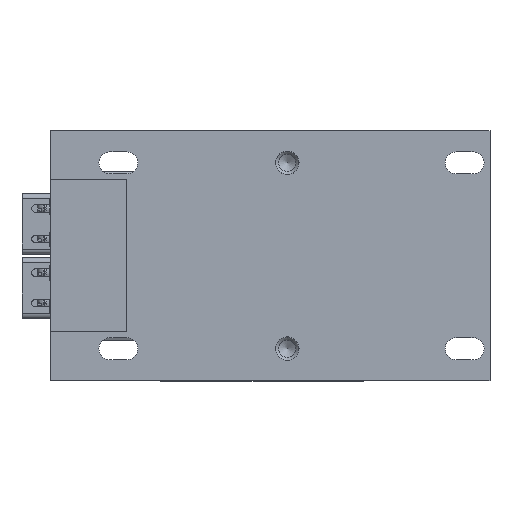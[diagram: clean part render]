
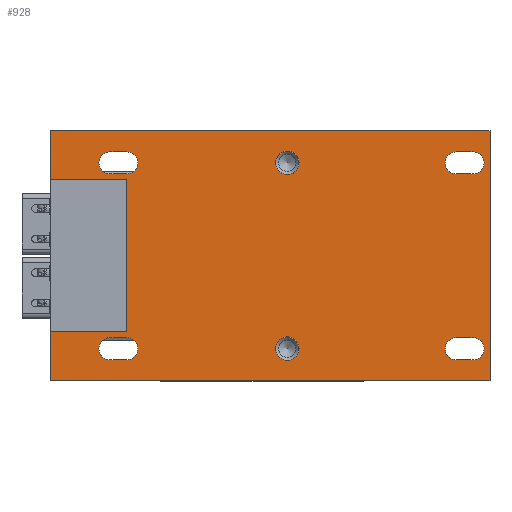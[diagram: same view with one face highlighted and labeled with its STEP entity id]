
A CAD part, top view. The second image highlights one B-rep face of the part: STEP entity #928.
In plain terms, the highlighted planar face has unit normal (0, 0, 1).
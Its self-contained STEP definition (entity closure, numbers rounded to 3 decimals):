
#928=ADVANCED_FACE('',(#8938,#8940,#8942,#8944,#8946,#8948,#8950),#8952,.T.);
#8938=FACE_BOUND('',#8939,.T.);
#8939=EDGE_LOOP('',(#17182,#17183,#17184,#17185,#17186,#17187,#17188,#17189));
#8940=FACE_BOUND('',#8941,.T.);
#8941=EDGE_LOOP('',(#17190,#17191,#17192,#17193));
#8942=FACE_BOUND('',#8943,.T.);
#8943=EDGE_LOOP('',(#17194,#17195,#17196,#17197));
#8944=FACE_BOUND('',#8945,.T.);
#8945=EDGE_LOOP('',(#17198,#17199,#17200,#17201));
#8946=FACE_BOUND('',#8947,.T.);
#8947=EDGE_LOOP('',(#17202,#17203,#17204,#17205));
#8948=FACE_BOUND('',#8949,.T.);
#8949=EDGE_LOOP('',(#17206));
#8950=FACE_BOUND('',#8951,.T.);
#8951=EDGE_LOOP('',(#17207));
#8952=PLANE('',#8953);
#8953=AXIS2_PLACEMENT_3D('',#8954,#8955,#8956);
#8954=CARTESIAN_POINT('',(0.,0.,115.));
#8955=DIRECTION('',(0.,0.,1.));
#8956=DIRECTION('',(1.,0.,0.));
#17182=ORIENTED_EDGE('',*,*,#23219,.T.);
#17183=ORIENTED_EDGE('',*,*,#23220,.F.);
#17184=ORIENTED_EDGE('',*,*,#23221,.T.);
#17185=ORIENTED_EDGE('',*,*,#23222,.T.);
#17186=ORIENTED_EDGE('',*,*,#23223,.T.);
#17187=ORIENTED_EDGE('',*,*,#23224,.T.);
#17188=ORIENTED_EDGE('',*,*,#23225,.T.);
#17189=ORIENTED_EDGE('',*,*,#23226,.F.);
#17190=ORIENTED_EDGE('',*,*,#23227,.T.);
#17191=ORIENTED_EDGE('',*,*,#23228,.T.);
#17192=ORIENTED_EDGE('',*,*,#23229,.T.);
#17193=ORIENTED_EDGE('',*,*,#23230,.T.);
#17194=ORIENTED_EDGE('',*,*,#23231,.T.);
#17195=ORIENTED_EDGE('',*,*,#23232,.T.);
#17196=ORIENTED_EDGE('',*,*,#23233,.T.);
#17197=ORIENTED_EDGE('',*,*,#23234,.T.);
#17198=ORIENTED_EDGE('',*,*,#23235,.T.);
#17199=ORIENTED_EDGE('',*,*,#23236,.T.);
#17200=ORIENTED_EDGE('',*,*,#23237,.T.);
#17201=ORIENTED_EDGE('',*,*,#23238,.T.);
#17202=ORIENTED_EDGE('',*,*,#23239,.T.);
#17203=ORIENTED_EDGE('',*,*,#23240,.T.);
#17204=ORIENTED_EDGE('',*,*,#23241,.T.);
#17205=ORIENTED_EDGE('',*,*,#23242,.T.);
#17206=ORIENTED_EDGE('',*,*,#23243,.T.);
#17207=ORIENTED_EDGE('',*,*,#23216,.T.);
#23216=EDGE_CURVE('',#26185,#26185,#26186,.F.);
#23219=EDGE_CURVE('',#26191,#26192,#26193,.T.);
#23220=EDGE_CURVE('',#26194,#26192,#26195,.T.);
#23221=EDGE_CURVE('',#26194,#26196,#26197,.T.);
#23222=EDGE_CURVE('',#26196,#26198,#26199,.T.);
#23223=EDGE_CURVE('',#26198,#26200,#26201,.T.);
#23224=EDGE_CURVE('',#26200,#26202,#26203,.T.);
#23225=EDGE_CURVE('',#26202,#26204,#26205,.T.);
#23226=EDGE_CURVE('',#26191,#26204,#26206,.T.);
#23227=EDGE_CURVE('',#26207,#26208,#26209,.F.);
#23228=EDGE_CURVE('',#26208,#26210,#26211,.F.);
#23229=EDGE_CURVE('',#26210,#26212,#26213,.F.);
#23230=EDGE_CURVE('',#26212,#26207,#26214,.F.);
#23231=EDGE_CURVE('',#26215,#26216,#26217,.F.);
#23232=EDGE_CURVE('',#26216,#26218,#26219,.F.);
#23233=EDGE_CURVE('',#26218,#26220,#26221,.F.);
#23234=EDGE_CURVE('',#26220,#26215,#26222,.F.);
#23235=EDGE_CURVE('',#26223,#26224,#26225,.F.);
#23236=EDGE_CURVE('',#26224,#26226,#26227,.F.);
#23237=EDGE_CURVE('',#26226,#26228,#26229,.F.);
#23238=EDGE_CURVE('',#26228,#26223,#26230,.F.);
#23239=EDGE_CURVE('',#26231,#26232,#26233,.F.);
#23240=EDGE_CURVE('',#26232,#26234,#26235,.F.);
#23241=EDGE_CURVE('',#26234,#26236,#26237,.F.);
#23242=EDGE_CURVE('',#26236,#26231,#26238,.F.);
#23243=EDGE_CURVE('',#26239,#26239,#26240,.F.);
#26185=VERTEX_POINT('',#31113);
#26186=CIRCLE('',#31114,7.);
#26191=VERTEX_POINT('',#31128);
#26192=VERTEX_POINT('',#31129);
#26193=LINE('',#31130,#31131);
#26194=VERTEX_POINT('',#31133);
#26195=LINE('',#31134,#31135);
#26196=VERTEX_POINT('',#31137);
#26197=LINE('',#31138,#31139);
#26198=VERTEX_POINT('',#31141);
#26199=LINE('',#31142,#31143);
#26200=VERTEX_POINT('',#31145);
#26201=LINE('',#31146,#31147);
#26202=VERTEX_POINT('',#31149);
#26203=LINE('',#31150,#31151);
#26204=VERTEX_POINT('',#31153);
#26205=LINE('',#31154,#31155);
#26206=LINE('',#31157,#31158);
#26207=VERTEX_POINT('',#31160);
#26208=VERTEX_POINT('',#31161);
#26209=CIRCLE('',#31162,6.5);
#26210=VERTEX_POINT('',#31166);
#26211=LINE('',#31167,#31168);
#26212=VERTEX_POINT('',#31170);
#26213=CIRCLE('',#31171,6.5);
#26214=LINE('',#31175,#31176);
#26215=VERTEX_POINT('',#31178);
#26216=VERTEX_POINT('',#31179);
#26217=CIRCLE('',#31180,6.5);
#26218=VERTEX_POINT('',#31184);
#26219=LINE('',#31185,#31186);
#26220=VERTEX_POINT('',#31188);
#26221=CIRCLE('',#31189,6.5);
#26222=LINE('',#31193,#31194);
#26223=VERTEX_POINT('',#31196);
#26224=VERTEX_POINT('',#31197);
#26225=CIRCLE('',#31198,6.5);
#26226=VERTEX_POINT('',#31202);
#26227=LINE('',#31203,#31204);
#26228=VERTEX_POINT('',#31206);
#26229=CIRCLE('',#31207,6.5);
#26230=LINE('',#31211,#31212);
#26231=VERTEX_POINT('',#31214);
#26232=VERTEX_POINT('',#31215);
#26233=CIRCLE('',#31216,6.5);
#26234=VERTEX_POINT('',#31220);
#26235=LINE('',#31221,#31222);
#26236=VERTEX_POINT('',#31224);
#26237=CIRCLE('',#31225,6.5);
#26238=LINE('',#31229,#31230);
#26239=VERTEX_POINT('',#31232);
#26240=CIRCLE('',#31233,7.);
#31113=CARTESIAN_POINT('',(22.,19.,115.));
#31114=AXIS2_PLACEMENT_3D('',#31115,#31116,#31117);
#31115=CARTESIAN_POINT('',(15.,19.,115.));
#31116=DIRECTION('',(0.,0.,1.));
#31117=DIRECTION('',(1.,0.,0.));
#31128=CARTESIAN_POINT('',(135.,0.,115.));
#31129=CARTESIAN_POINT('',(135.,148.,115.));
#31130=CARTESIAN_POINT('',(135.,0.,115.));
#31131=VECTOR('',#31132,1.);
#31132=DIRECTION('',(0.,1.,0.));
#31133=CARTESIAN_POINT('',(-125.,148.,115.));
#31134=CARTESIAN_POINT('',(-125.,148.,115.));
#31135=VECTOR('',#31136,1.);
#31136=DIRECTION('',(1.,0.,0.));
#31137=CARTESIAN_POINT('',(-125.,119.,115.));
#31138=CARTESIAN_POINT('',(-125.,148.,115.));
#31139=VECTOR('',#31140,1.);
#31140=DIRECTION('',(0.,-1.,0.));
#31141=CARTESIAN_POINT('',(-80.,119.,115.));
#31142=CARTESIAN_POINT('',(-125.,119.,115.));
#31143=VECTOR('',#31144,1.);
#31144=DIRECTION('',(1.,0.,0.));
#31145=CARTESIAN_POINT('',(-80.,29.,115.));
#31146=CARTESIAN_POINT('',(-80.,119.,115.));
#31147=VECTOR('',#31148,1.);
#31148=DIRECTION('',(0.,-1.,0.));
#31149=CARTESIAN_POINT('',(-125.,29.,115.));
#31150=CARTESIAN_POINT('',(-80.,29.,115.));
#31151=VECTOR('',#31152,1.);
#31152=DIRECTION('',(-1.,0.,0.));
#31153=CARTESIAN_POINT('',(-125.,0.,115.));
#31154=CARTESIAN_POINT('',(-125.,29.,115.));
#31155=VECTOR('',#31156,1.);
#31156=DIRECTION('',(0.,-1.,0.));
#31157=CARTESIAN_POINT('',(135.,0.,115.));
#31158=VECTOR('',#31159,1.);
#31159=DIRECTION('',(-1.,0.,0.));
#31160=CARTESIAN_POINT('',(-90.,12.5,115.));
#31161=CARTESIAN_POINT('',(-90.,25.5,115.));
#31162=AXIS2_PLACEMENT_3D('',#31163,#31164,#31165);
#31163=CARTESIAN_POINT('',(-90.,19.,115.));
#31164=DIRECTION('',(0.,0.,1.));
#31165=DIRECTION('',(0.,1.,0.));
#31166=CARTESIAN_POINT('',(-80.,25.5,115.));
#31167=CARTESIAN_POINT('',(-80.,25.5,115.));
#31168=VECTOR('',#31169,1.);
#31169=DIRECTION('',(-1.,0.,0.));
#31170=CARTESIAN_POINT('',(-80.,12.5,115.));
#31171=AXIS2_PLACEMENT_3D('',#31172,#31173,#31174);
#31172=CARTESIAN_POINT('',(-80.,19.,115.));
#31173=DIRECTION('',(0.,0.,1.));
#31174=DIRECTION('',(0.,-1.,0.));
#31175=CARTESIAN_POINT('',(-90.,12.5,115.));
#31176=VECTOR('',#31177,1.);
#31177=DIRECTION('',(1.,0.,0.));
#31178=CARTESIAN_POINT('',(-90.,122.5,115.));
#31179=CARTESIAN_POINT('',(-90.,135.5,115.));
#31180=AXIS2_PLACEMENT_3D('',#31181,#31182,#31183);
#31181=CARTESIAN_POINT('',(-90.,129.,115.));
#31182=DIRECTION('',(0.,0.,1.));
#31183=DIRECTION('',(0.,1.,0.));
#31184=CARTESIAN_POINT('',(-80.,135.5,115.));
#31185=CARTESIAN_POINT('',(-80.,135.5,115.));
#31186=VECTOR('',#31187,1.);
#31187=DIRECTION('',(-1.,0.,0.));
#31188=CARTESIAN_POINT('',(-80.,122.5,115.));
#31189=AXIS2_PLACEMENT_3D('',#31190,#31191,#31192);
#31190=CARTESIAN_POINT('',(-80.,129.,115.));
#31191=DIRECTION('',(0.,0.,1.));
#31192=DIRECTION('',(0.,-1.,0.));
#31193=CARTESIAN_POINT('',(-90.,122.5,115.));
#31194=VECTOR('',#31195,1.);
#31195=DIRECTION('',(1.,0.,0.));
#31196=CARTESIAN_POINT('',(115.,122.5,115.));
#31197=CARTESIAN_POINT('',(115.,135.5,115.));
#31198=AXIS2_PLACEMENT_3D('',#31199,#31200,#31201);
#31199=CARTESIAN_POINT('',(115.,129.,115.));
#31200=DIRECTION('',(0.,0.,1.));
#31201=DIRECTION('',(0.,1.,0.));
#31202=CARTESIAN_POINT('',(125.,135.5,115.));
#31203=CARTESIAN_POINT('',(125.,135.5,115.));
#31204=VECTOR('',#31205,1.);
#31205=DIRECTION('',(-1.,0.,0.));
#31206=CARTESIAN_POINT('',(125.,122.5,115.));
#31207=AXIS2_PLACEMENT_3D('',#31208,#31209,#31210);
#31208=CARTESIAN_POINT('',(125.,129.,115.));
#31209=DIRECTION('',(0.,0.,1.));
#31210=DIRECTION('',(0.,-1.,0.));
#31211=CARTESIAN_POINT('',(115.,122.5,115.));
#31212=VECTOR('',#31213,1.);
#31213=DIRECTION('',(1.,0.,0.));
#31214=CARTESIAN_POINT('',(115.,12.5,115.));
#31215=CARTESIAN_POINT('',(115.,25.5,115.));
#31216=AXIS2_PLACEMENT_3D('',#31217,#31218,#31219);
#31217=CARTESIAN_POINT('',(115.,19.,115.));
#31218=DIRECTION('',(0.,0.,1.));
#31219=DIRECTION('',(0.,1.,0.));
#31220=CARTESIAN_POINT('',(125.,25.5,115.));
#31221=CARTESIAN_POINT('',(125.,25.5,115.));
#31222=VECTOR('',#31223,1.);
#31223=DIRECTION('',(-1.,0.,0.));
#31224=CARTESIAN_POINT('',(125.,12.5,115.));
#31225=AXIS2_PLACEMENT_3D('',#31226,#31227,#31228);
#31226=CARTESIAN_POINT('',(125.,19.,115.));
#31227=DIRECTION('',(0.,0.,1.));
#31228=DIRECTION('',(0.,-1.,0.));
#31229=CARTESIAN_POINT('',(115.,12.5,115.));
#31230=VECTOR('',#31231,1.);
#31231=DIRECTION('',(1.,0.,0.));
#31232=CARTESIAN_POINT('',(22.,129.,115.));
#31233=AXIS2_PLACEMENT_3D('',#31234,#31235,#31236);
#31234=CARTESIAN_POINT('',(15.,129.,115.));
#31235=DIRECTION('',(0.,0.,1.));
#31236=DIRECTION('',(1.,0.,0.));
